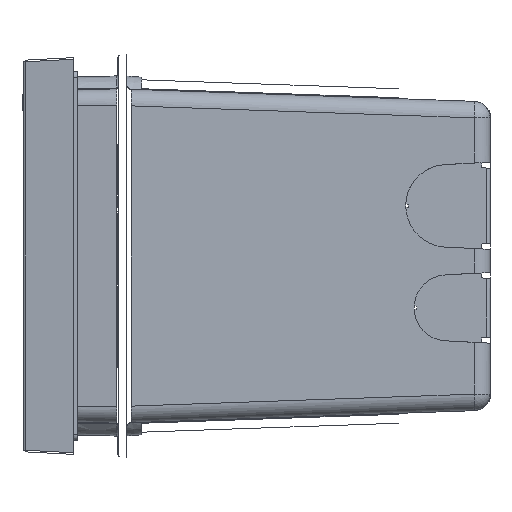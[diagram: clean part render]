
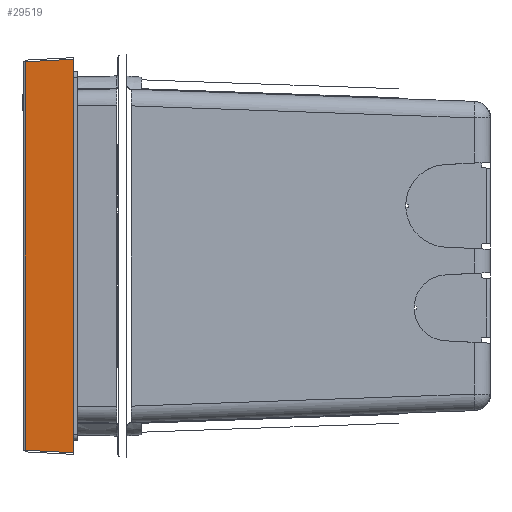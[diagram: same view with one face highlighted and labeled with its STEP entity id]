
A CAD part, left-side view. The second image highlights one B-rep face of the part: STEP entity #29519.
In plain terms, the highlighted planar face has unit normal (-0.999, 0.052, 0).
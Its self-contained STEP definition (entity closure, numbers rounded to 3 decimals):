
#25829=CARTESIAN_POINT('',(-134.077,13.5,-59.578));
#25831=DIRECTION('',(0.,0.,-1.));
#25832=VECTOR('',#25831,119.156);
#25833=CARTESIAN_POINT('',(-134.077,13.5,59.578));
#25834=LINE('',#25833,#25832);
#25835=CARTESIAN_POINT('',(-134.077,13.5,59.578));
#26912=DIRECTION('',(0.052,0.997,0.052));
#26913=VECTOR('',#26912,14.767);
#26914=CARTESIAN_POINT('',(-134.077,13.5,-59.578));
#26915=LINE('',#26914,#26913);
#26916=DIRECTION('',(0.,0.,1.));
#26917=VECTOR('',#26916,117.612);
#26918=CARTESIAN_POINT('',(-133.305,28.226,
-58.806));
#26919=LINE('',#26918,#26917);
#26920=DIRECTION('',(-0.052,-0.997,0.052));
#26921=VECTOR('',#26920,14.767);
#26922=CARTESIAN_POINT('',(-133.305,28.226,
58.806));
#26923=LINE('',#26922,#26921);
#27871=VERTEX_POINT('',#25829);
#27873=CARTESIAN_POINT('',(-133.305,28.226,
-58.806));
#27874=VERTEX_POINT('',#27873);
#27875=CARTESIAN_POINT('',(-133.305,28.226,
58.806));
#27876=VERTEX_POINT('',#27875);
#27880=VERTEX_POINT('',#25835);
#29505=CARTESIAN_POINT('',(-134.077,13.5,-61.197));
#29506=DIRECTION('',(-0.999,0.052,0.));
#29507=DIRECTION('',(0.,0.,1.));
#29508=AXIS2_PLACEMENT_3D('',#29505,#29506,#29507);
#29509=PLANE('',#29508);
#29511=ORIENTED_EDGE('',*,*,#29510,.T.);
#29513=ORIENTED_EDGE('',*,*,#29512,.T.);
#29515=ORIENTED_EDGE('',*,*,#29514,.T.);
#29516=ORIENTED_EDGE('',*,*,#28768,.T.);
#29517=EDGE_LOOP('',(#29511,#29513,#29515,#29516));
#29518=FACE_OUTER_BOUND('',#29517,.F.);
#29519=ADVANCED_FACE('',(#29518),#29509,.T.);
#28768=EDGE_CURVE('',#27880,#27871,#25834,.T.);
#29510=EDGE_CURVE('',#27871,#27874,#26915,.T.);
#29512=EDGE_CURVE('',#27874,#27876,#26919,.T.);
#29514=EDGE_CURVE('',#27876,#27880,#26923,.T.);
